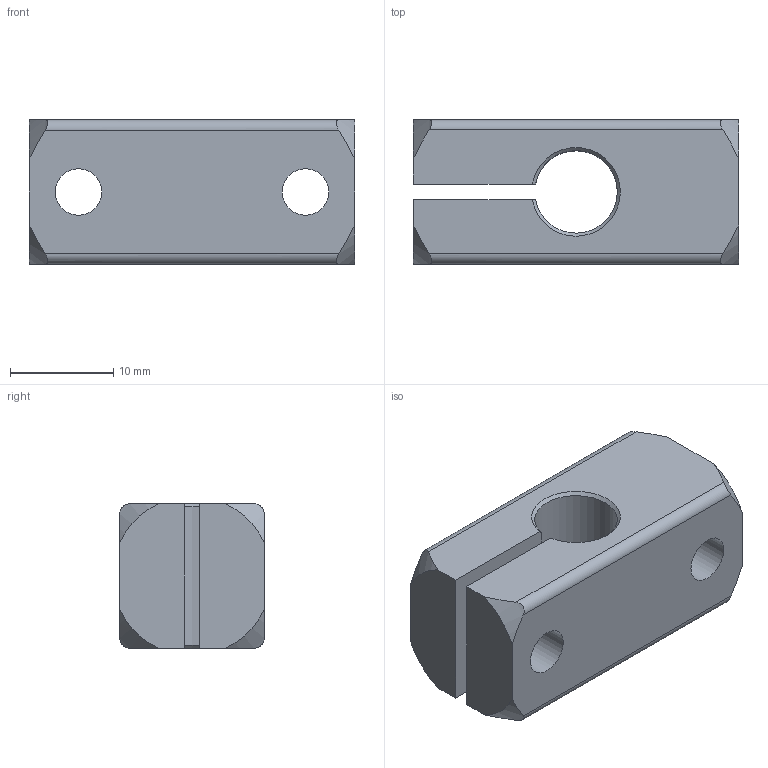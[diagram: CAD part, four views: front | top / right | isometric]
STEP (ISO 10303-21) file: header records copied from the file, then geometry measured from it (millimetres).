
FILE_DESCRIPTION( ( 'STEP AP203' ), '1' );
FILE_NAME( 'C:/Temp/Ganter_Step_05_03_2020/data/3_7/gn_477/Clamp mounting GN 477-B8-ELS.stp', '2020-03-12T14:46:04', ( 'License CC BY-ND 4.0' ), ( 'CADENAS' ), ' ', 'PARTsolutions', ' ' );
FILE_SCHEMA( ( 'CONFIG_CONTROL_DESIGN' ) );
Length unit declared in the file: millimetre
Products named in the file (1): _Clamp mounting GN 477-B8-ELS
Bounding box: 31.5 x 14 x 14 mm (x, y, z)
Volume: 4518.6 mm3; surface area: 2916 mm2
Topology: 1 solids, 1 shells, 31 faces, 82 edges, 55 vertices
Faces by surface type: plane 11, cone 10, cylinder 10
Full cylindrical faces by diameter (mm): 4.5 x3, 7.5 x2
Entity records: 1096 total; most frequent: CARTESIAN_POINT 326, ORIENTED_EDGE 152, DIRECTION 134, EDGE_CURVE 76, AXIS2_PLACEMENT_3D 54, VERTEX_POINT 54, EDGE_LOOP 44, FACE_OUTER_BOUND 36
